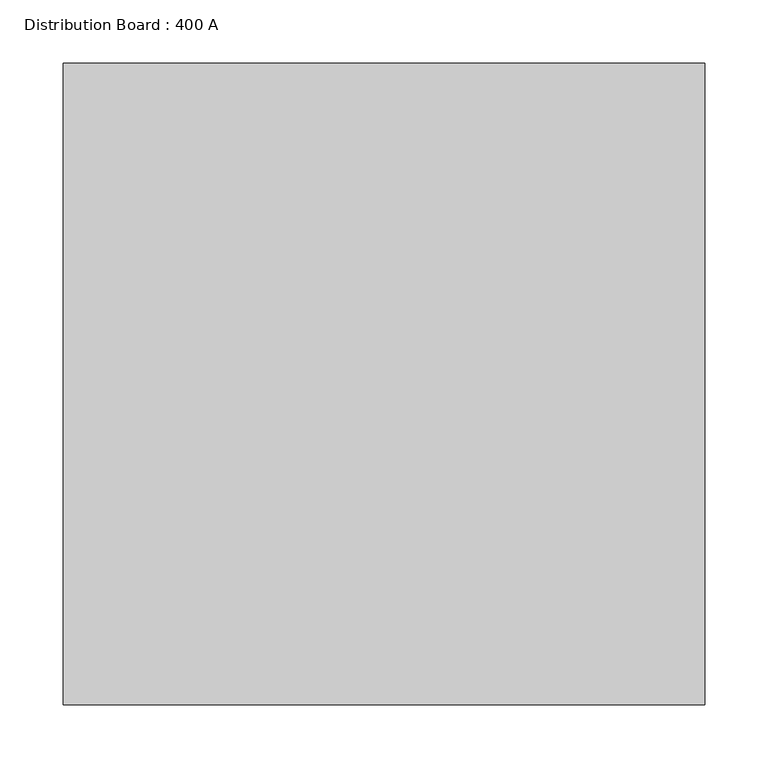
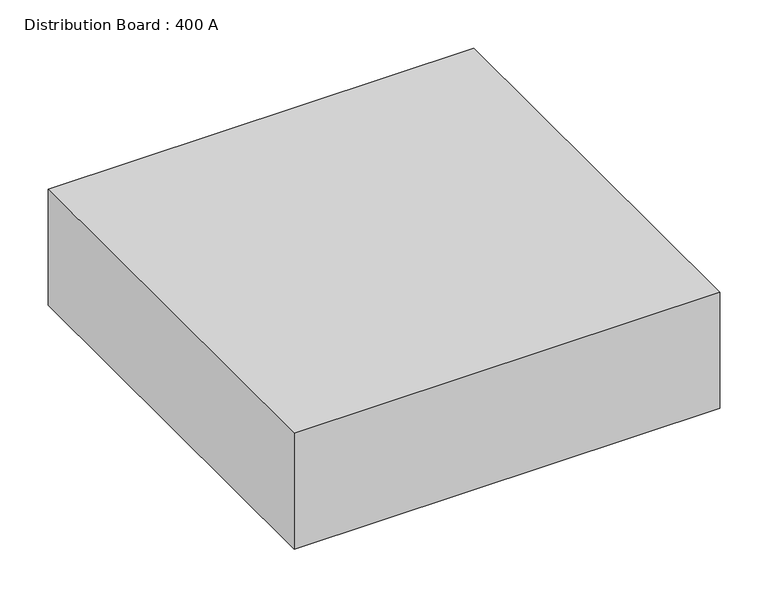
"""IFC4 building model written with IfcOpenShell, lengths in millimetres: proxy geometry, Distribution Board : 400 A."""

from ifc_helpers import new_model, si_unit, origin, origin_with_axes, place, context, project, spatial, polyline, outline, extrude, source, transform, mapped, element, save


def distribution_board_400_a_e60cab58(model_context):
    return source(origin(), model_context, "Body", "SweptSolid", [
        extrude(outline(polyline([(254.0, -508.0), (-254.0, -508.0), (-254.0, 0.0), (254.0, 0.0), (254.0, -508.0)])), origin_with_axes(), (0.0, 0.0, 1.0), 146.1),
    ])


if __name__ == "__main__":
    model = new_model("IFC4")
    model_context = context("Model", 3, world=origin())
    ifc_project = project(units=[si_unit("LENGTHUNIT", "METRE", prefix="MILLI")], contexts=[model_context])
    site = spatial("IfcSite", under=ifc_project)
    building = spatial("IfcBuilding", under=site)
    placement = place(None, origin())
    distribution_board_400_a_shape = distribution_board_400_a_e60cab58(model_context)
    element("IfcBuildingElementProxy", 1, Name="Distribution Board : 400 A", ObjectType="Distribution Board : 400 A", at=placement, inside=building, context=model_context, shape_type="MappedRepresentation", body=[
        mapped(distribution_board_400_a_shape, transform((0.0, 0.0, 0.0), x_axis=(1.0, 0.0, 0.0), y_axis=(0.0, 1.0, 0.0), z_axis=(0.0, 0.0, 1.0))),
    ])
    save(model, "model.ifc")
